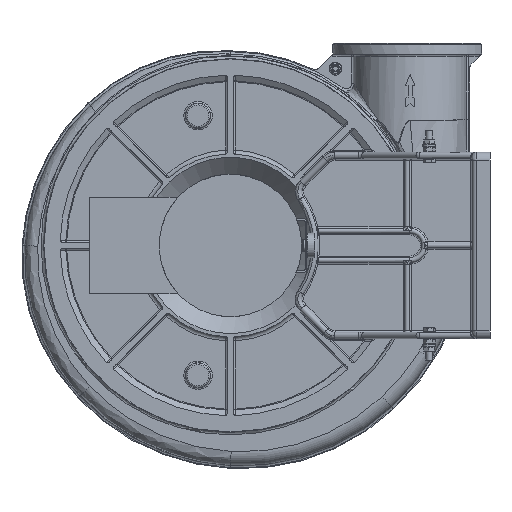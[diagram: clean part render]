
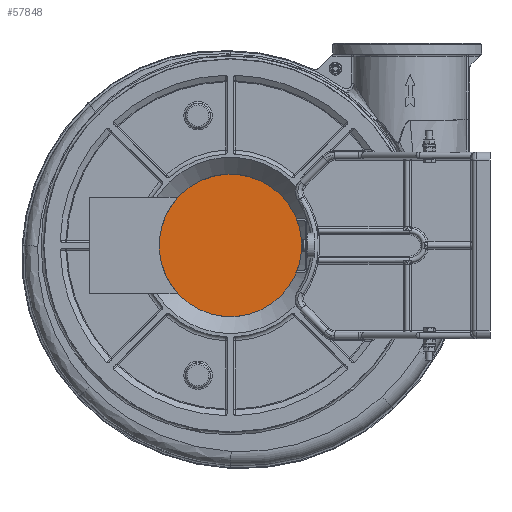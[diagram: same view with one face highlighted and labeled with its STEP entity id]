
A CAD part, left-side view. The second image highlights one B-rep face of the part: STEP entity #57848.
In plain terms, the highlighted planar face has unit normal (-1, 0, 0).
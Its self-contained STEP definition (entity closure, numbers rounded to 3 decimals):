
#1362=PLANE('',#60630);
#15660=FACE_OUTER_BOUND('',#18875,.T.);
#18875=EDGE_LOOP('',(#42775));
#21821=CIRCLE('',#60271,87.8);
#24631=VERTEX_POINT('',#82347);
#30227=EDGE_CURVE('',#24631,#24631,#21821,.T.);
#42775=ORIENTED_EDGE('',*,*,#30227,.T.);
#57848=ADVANCED_FACE('',(#15660),#1362,.F.);
#60271=AXIS2_PLACEMENT_3D('',#82348,#64278,#64279);
#60630=AXIS2_PLACEMENT_3D('',#98046,#66044,#66045);
#64278=DIRECTION('center_axis',(-1.,0.,0.));
#64279=DIRECTION('ref_axis',(0.,-0.078,
-0.997));
#66044=DIRECTION('center_axis',(1.,0.,0.));
#66045=DIRECTION('ref_axis',(0.,0.,-1.));
#82347=CARTESIAN_POINT('',(-261.51,-1.387,87.529));
#82348=CARTESIAN_POINT('Origin',(-261.51,-8.276,0.));
#98046=CARTESIAN_POINT('Origin',(-261.51,-8.276,0.));
